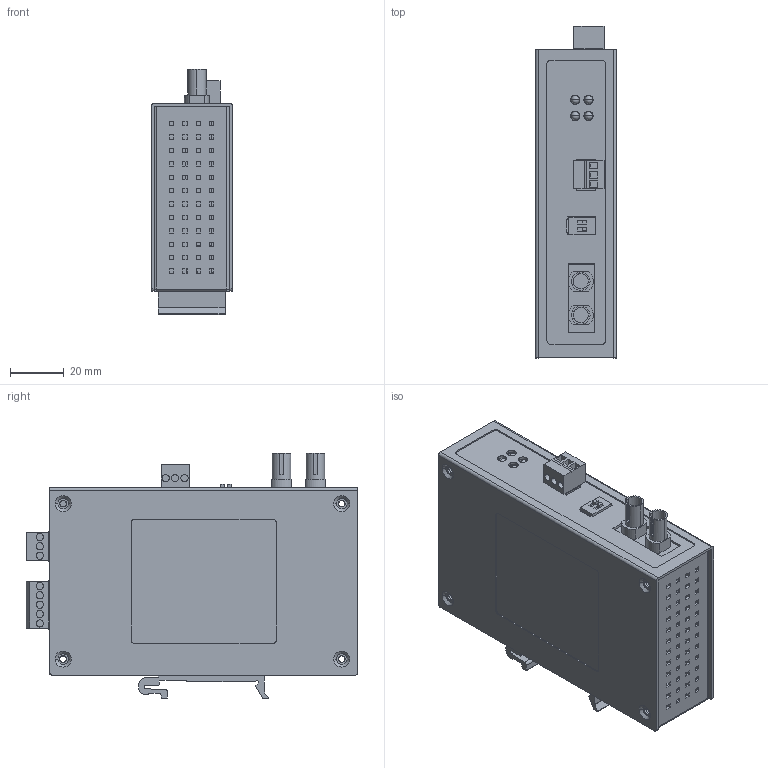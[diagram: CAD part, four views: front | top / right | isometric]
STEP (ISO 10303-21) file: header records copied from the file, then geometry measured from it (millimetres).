
FILE_DESCRIPTION((''),'2;1');
FILE_NAME('PRT0001','2014-01-28T',('Sam_Liu'),(''),'PRO/ENGINEER BY PARAMETRIC TECHNOLOGY CORPORATION, 2013230','PRO/ENGINEER BY PARAMETRIC TECHNOLOGY CORPORATION, 2013230','');
FILE_SCHEMA(('CONFIG_CONTROL_DESIGN'));
Length unit declared in the file: millimetre
Products named in the file (1): PRT0001
Bounding box: 30.3 x 123.8 x 91.6 mm (x, y, z)
Volume: 58682.1 mm3; surface area: 92789.8 mm2
Topology: 1 solids, 12 shells, 1222 faces, 3112 edges, 2033 vertices
Faces by surface type: plane 819, cylinder 375, cone 20, sphere 8
Entity records: 37063 total; most frequent: DIRECTION 6375, CARTESIAN_POINT 6359, ORIENTED_EDGE 6208, EDGE_CURVE 3104, VECTOR 2277, LINE 2277, AXIS2_PLACEMENT_3D 2049, VERTEX_POINT 2033
